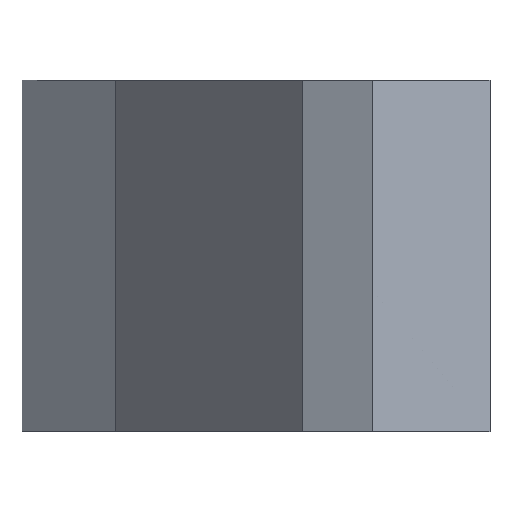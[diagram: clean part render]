
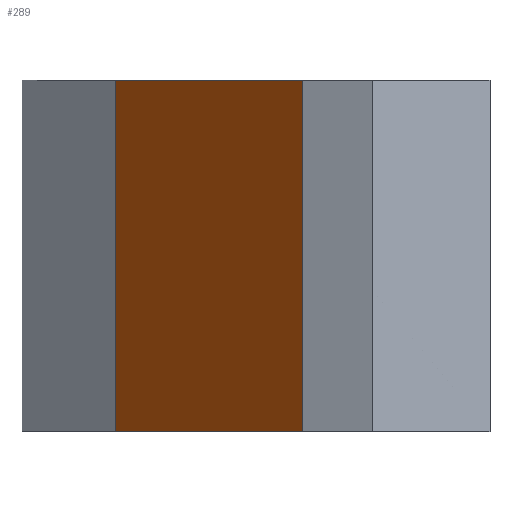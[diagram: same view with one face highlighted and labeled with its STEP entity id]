
A CAD part, left-side view. The second image highlights one B-rep face of the part: STEP entity #289.
In plain terms, the highlighted planar face has unit normal (-0.625, 0.781, 0).
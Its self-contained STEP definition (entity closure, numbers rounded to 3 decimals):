
#72 = PLANE('',#73);
#73 = AXIS2_PLACEMENT_3D('',#74,#75,#76);
#74 = CARTESIAN_POINT('',(87.283,7.53,1.5));
#75 = DIRECTION('',(0.,0.,1.));
#76 = DIRECTION('',(1.,0.,-0.));
#126 = PLANE('',#127);
#127 = AXIS2_PLACEMENT_3D('',#128,#129,#130);
#128 = CARTESIAN_POINT('',(87.283,7.53,0.));
#129 = DIRECTION('',(0.,0.,1.));
#130 = DIRECTION('',(1.,0.,-0.));
#181 = PLANE('',#182);
#182 = AXIS2_PLACEMENT_3D('',#183,#184,#185);
#183 = CARTESIAN_POINT('',(103.375,8.25,0.));
#184 = DIRECTION('',(0.012,-1.,0.));
#185 = DIRECTION('',(-1.,-0.012,0.));
#219 = VERTEX_POINT('',#220);
#220 = CARTESIAN_POINT('',(69.375,7.85,1.5));
#241 = EDGE_CURVE('',#242,#219,#244,.T.);
#242 = VERTEX_POINT('',#243);
#243 = CARTESIAN_POINT('',(69.375,7.85,0.));
#244 = SURFACE_CURVE('',#245,(#249,#256),.PCURVE_S1.);
#245 = LINE('',#246,#247);
#246 = CARTESIAN_POINT('',(69.375,7.85,0.));
#247 = VECTOR('',#248,1.);
#248 = DIRECTION('',(0.,0.,1.));
#249 = PCURVE('',#181,#250);
#250 = DEFINITIONAL_REPRESENTATION('',(#251),#255);
#251 = LINE('',#252,#253);
#252 = CARTESIAN_POINT('',(34.002,0.));
#253 = VECTOR('',#254,1.);
#254 = DIRECTION('',(0.,-1.));
#255 = ( GEOMETRIC_REPRESENTATION_CONTEXT(2) 
PARAMETRIC_REPRESENTATION_CONTEXT() REPRESENTATION_CONTEXT('2D SPACE',''
  ) );
#256 = PCURVE('',#257,#262);
#257 = PLANE('',#258);
#258 = AXIS2_PLACEMENT_3D('',#259,#260,#261);
#259 = CARTESIAN_POINT('',(69.375,7.85,0.));
#260 = DIRECTION('',(0.625,-0.781,0.));
#261 = DIRECTION('',(-0.781,-0.625,0.));
#262 = DEFINITIONAL_REPRESENTATION('',(#263),#267);
#263 = LINE('',#264,#265);
#264 = CARTESIAN_POINT('',(0.,0.));
#265 = VECTOR('',#266,1.);
#266 = DIRECTION('',(0.,-1.));
#267 = ( GEOMETRIC_REPRESENTATION_CONTEXT(2) 
PARAMETRIC_REPRESENTATION_CONTEXT() REPRESENTATION_CONTEXT('2D SPACE',''
  ) );
#289 = ADVANCED_FACE('',(#290),#257,.F.);
#290 = FACE_BOUND('',#291,.F.);
#291 = EDGE_LOOP('',(#292,#293,#316,#344));
#292 = ORIENTED_EDGE('',*,*,#241,.T.);
#293 = ORIENTED_EDGE('',*,*,#294,.T.);
#294 = EDGE_CURVE('',#219,#295,#297,.T.);
#295 = VERTEX_POINT('',#296);
#296 = CARTESIAN_POINT('',(68.375,7.05,1.5));
#297 = SURFACE_CURVE('',#298,(#302,#309),.PCURVE_S1.);
#298 = LINE('',#299,#300);
#299 = CARTESIAN_POINT('',(69.375,7.85,1.5));
#300 = VECTOR('',#301,1.);
#301 = DIRECTION('',(-0.781,-0.625,0.));
#302 = PCURVE('',#257,#303);
#303 = DEFINITIONAL_REPRESENTATION('',(#304),#308);
#304 = LINE('',#305,#306);
#305 = CARTESIAN_POINT('',(0.,-1.5));
#306 = VECTOR('',#307,1.);
#307 = DIRECTION('',(1.,0.));
#308 = ( GEOMETRIC_REPRESENTATION_CONTEXT(2) 
PARAMETRIC_REPRESENTATION_CONTEXT() REPRESENTATION_CONTEXT('2D SPACE',''
  ) );
#309 = PCURVE('',#72,#310);
#310 = DEFINITIONAL_REPRESENTATION('',(#311),#315);
#311 = LINE('',#312,#313);
#312 = CARTESIAN_POINT('',(-17.908,0.32));
#313 = VECTOR('',#314,1.);
#314 = DIRECTION('',(-0.781,-0.625));
#315 = ( GEOMETRIC_REPRESENTATION_CONTEXT(2) 
PARAMETRIC_REPRESENTATION_CONTEXT() REPRESENTATION_CONTEXT('2D SPACE',''
  ) );
#316 = ORIENTED_EDGE('',*,*,#317,.F.);
#317 = EDGE_CURVE('',#318,#295,#320,.T.);
#318 = VERTEX_POINT('',#319);
#319 = CARTESIAN_POINT('',(68.375,7.05,0.));
#320 = SURFACE_CURVE('',#321,(#325,#332),.PCURVE_S1.);
#321 = LINE('',#322,#323);
#322 = CARTESIAN_POINT('',(68.375,7.05,0.));
#323 = VECTOR('',#324,1.);
#324 = DIRECTION('',(0.,0.,1.));
#325 = PCURVE('',#257,#326);
#326 = DEFINITIONAL_REPRESENTATION('',(#327),#331);
#327 = LINE('',#328,#329);
#328 = CARTESIAN_POINT('',(1.281,0.));
#329 = VECTOR('',#330,1.);
#330 = DIRECTION('',(0.,-1.));
#331 = ( GEOMETRIC_REPRESENTATION_CONTEXT(2) 
PARAMETRIC_REPRESENTATION_CONTEXT() REPRESENTATION_CONTEXT('2D SPACE',''
  ) );
#332 = PCURVE('',#333,#338);
#333 = PLANE('',#334);
#334 = AXIS2_PLACEMENT_3D('',#335,#336,#337);
#335 = CARTESIAN_POINT('',(68.375,7.05,0.));
#336 = DIRECTION('',(0.287,0.958,-0.));
#337 = DIRECTION('',(0.958,-0.287,0.));
#338 = DEFINITIONAL_REPRESENTATION('',(#339),#343);
#339 = LINE('',#340,#341);
#340 = CARTESIAN_POINT('',(0.,0.));
#341 = VECTOR('',#342,1.);
#342 = DIRECTION('',(0.,-1.));
#343 = ( GEOMETRIC_REPRESENTATION_CONTEXT(2) 
PARAMETRIC_REPRESENTATION_CONTEXT() REPRESENTATION_CONTEXT('2D SPACE',''
  ) );
#344 = ORIENTED_EDGE('',*,*,#345,.F.);
#345 = EDGE_CURVE('',#242,#318,#346,.T.);
#346 = SURFACE_CURVE('',#347,(#351,#358),.PCURVE_S1.);
#347 = LINE('',#348,#349);
#348 = CARTESIAN_POINT('',(69.375,7.85,0.));
#349 = VECTOR('',#350,1.);
#350 = DIRECTION('',(-0.781,-0.625,0.));
#351 = PCURVE('',#257,#352);
#352 = DEFINITIONAL_REPRESENTATION('',(#353),#357);
#353 = LINE('',#354,#355);
#354 = CARTESIAN_POINT('',(0.,0.));
#355 = VECTOR('',#356,1.);
#356 = DIRECTION('',(1.,0.));
#357 = ( GEOMETRIC_REPRESENTATION_CONTEXT(2) 
PARAMETRIC_REPRESENTATION_CONTEXT() REPRESENTATION_CONTEXT('2D SPACE',''
  ) );
#358 = PCURVE('',#126,#359);
#359 = DEFINITIONAL_REPRESENTATION('',(#360),#364);
#360 = LINE('',#361,#362);
#361 = CARTESIAN_POINT('',(-17.908,0.32));
#362 = VECTOR('',#363,1.);
#363 = DIRECTION('',(-0.781,-0.625));
#364 = ( GEOMETRIC_REPRESENTATION_CONTEXT(2) 
PARAMETRIC_REPRESENTATION_CONTEXT() REPRESENTATION_CONTEXT('2D SPACE',''
  ) );
